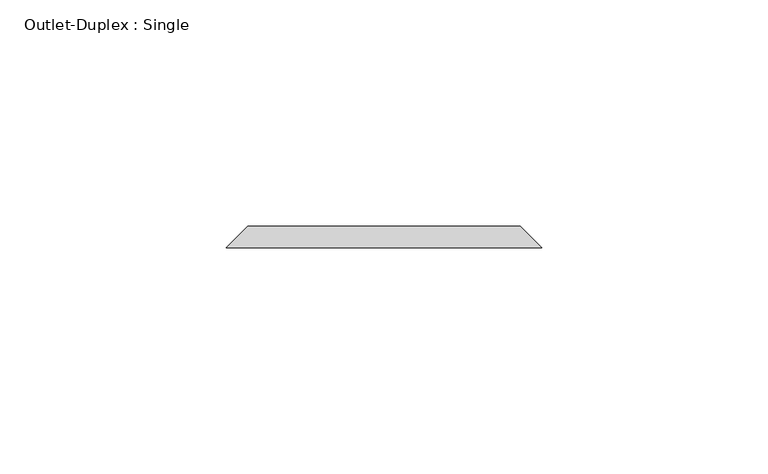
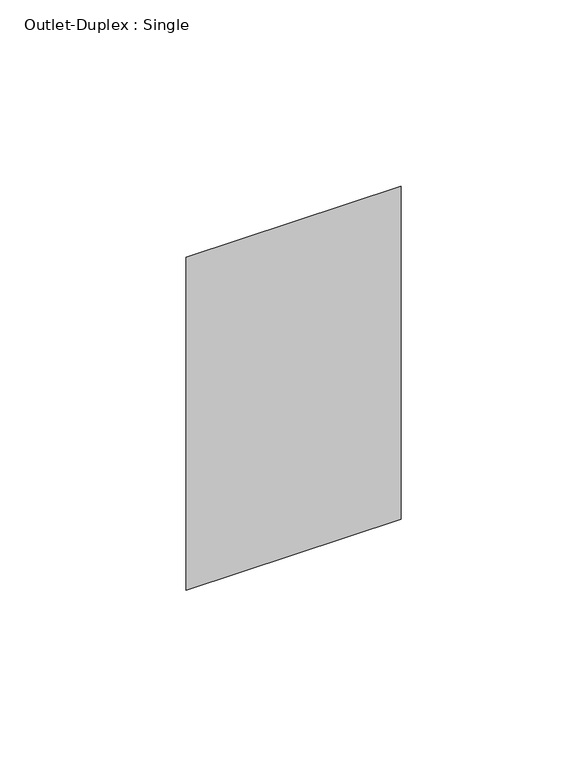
"""IFC4 building model written with IfcOpenShell, lengths in millimetres: proxy geometry, Outlet-Duplex : Single."""

from ifc_helpers import new_model, si_unit, origin, place, context, project, spatial, faceted_brep, source, transform, mapped, element, save


def outlet_duplex_single_54e95fff(model_context):
    return source(origin(), model_context, "Body", "Brep", [
        faceted_brep([(-30.1625, 71.4375, 357.1875), (30.1625, 71.4375, 357.1875), (30.1625, 71.4375, 252.4125), (-30.1625, 71.4375, 252.4125), (-34.925, 66.675, 361.95), (-34.925, 66.675, 247.65), (34.925, 66.675, 247.65), (34.925, 66.675, 361.95)], [[[0, 1, 2, 3]], [[4, 5, 6, 7]], [[4, 7, 1, 0]], [[7, 6, 2, 1]], [[6, 5, 3, 2]], [[5, 4, 0, 3]]]),
    ])


if __name__ == "__main__":
    model = new_model("IFC4")
    model_context = context("Model", 3, world=origin())
    ifc_project = project(units=[si_unit("LENGTHUNIT", "METRE", prefix="MILLI")], contexts=[model_context])
    site = spatial("IfcSite", under=ifc_project)
    building = spatial("IfcBuilding", under=site)
    placement = place(None, origin())
    outlet_duplex_single_shape = outlet_duplex_single_54e95fff(model_context)
    element("IfcBuildingElementProxy", 1, Name="Outlet-Duplex : Single", ObjectType="Outlet-Duplex : Single", at=placement, inside=building, context=model_context, shape_type="MappedRepresentation", body=[
        mapped(outlet_duplex_single_shape, transform((0.0, 0.0, 0.0), x_axis=(1.0, 0.0, 0.0), y_axis=(0.0, 1.0, 0.0), z_axis=(0.0, 0.0, 1.0))),
    ])
    save(model, "model.ifc")
